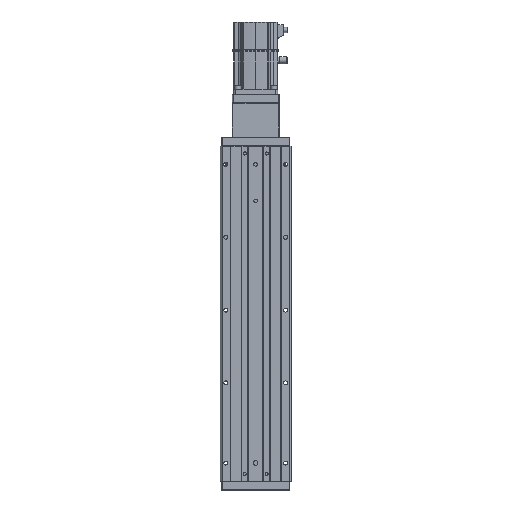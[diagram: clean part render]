
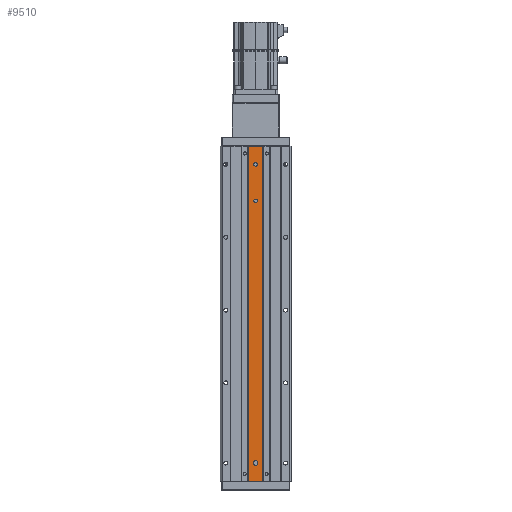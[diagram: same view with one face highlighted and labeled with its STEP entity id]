
A CAD part, front view. The second image highlights one B-rep face of the part: STEP entity #9510.
In plain terms, the highlighted planar face has unit normal (0, -1, 0).
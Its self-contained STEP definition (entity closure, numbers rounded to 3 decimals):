
#394 = AXIS2_PLACEMENT_3D ( 'NONE', #22732, #36310, #5788 ) ;
#1192 = ORIENTED_EDGE ( 'NONE', *, *, #33824, .F. ) ;
#2412 = EDGE_CURVE ( 'NONE', #42621, #5331, #25015, .T. ) ;
#4586 = ORIENTED_EDGE ( 'NONE', *, *, #5272, .T. ) ;
#4920 = EDGE_CURVE ( 'NONE', #8675, #5905, #42802, .T. ) ;
#5119 = CARTESIAN_POINT ( 'NONE',  ( -2.5, 1., 155. ) ) ;
#5272 = EDGE_CURVE ( 'NONE', #30691, #33425, #43386, .T. ) ;
#5331 = VERTEX_POINT ( 'NONE', #37237 ) ;
#5554 = DIRECTION ( 'NONE',  ( -1., 0., 0. ) ) ;
#5788 = DIRECTION ( 'NONE',  ( 1., 0., 0. ) ) ;
#5905 = VERTEX_POINT ( 'NONE', #39152 ) ;
#6741 = DIRECTION ( 'NONE',  ( 1., 0., 0. ) ) ;
#6859 = DIRECTION ( 'NONE',  ( 0., 1., 0. ) ) ;
#7227 = EDGE_CURVE ( 'NONE', #5905, #8675, #19587, .T. ) ;
#7366 = CARTESIAN_POINT ( 'NONE',  ( 2.5, 1., -204. ) ) ;
#7408 = EDGE_CURVE ( 'NONE', #34945, #42621, #38041, .T. ) ;
#7446 = DIRECTION ( 'NONE',  ( -1., 0., 0. ) ) ;
#7545 = CARTESIAN_POINT ( 'NONE',  ( -2.5, 1., -204. ) ) ;
#8219 = CARTESIAN_POINT ( 'NONE',  ( -10., 1., -230. ) ) ;
#8675 = VERTEX_POINT ( 'NONE', #14085 ) ;
#8710 = CARTESIAN_POINT ( 'NONE',  ( -2.5, 1., -206. ) ) ;
#9243 = CARTESIAN_POINT ( 'NONE',  ( 0., 1., -204. ) ) ;
#9321 = CARTESIAN_POINT ( 'NONE',  ( 0., 1., 155. ) ) ;
#9369 = ORIENTED_EDGE ( 'NONE', *, *, #10519, .F. ) ;
#9510 = ADVANCED_FACE ( 'NONE', ( #13540, #27143, #40655, #10197 ), #23807, .F. ) ;
#9512 = DIRECTION ( 'NONE',  ( 1., 0., 0. ) ) ;
#10197 = FACE_OUTER_BOUND ( 'NONE', #22573, .T. ) ;
#10519 = EDGE_CURVE ( 'NONE', #23127, #18860, #11346, .T. ) ;
#11346 = LINE ( 'NONE', #24965, #36815 ) ;
#12021 = EDGE_LOOP ( 'NONE', ( #21980, #31884 ) ) ;
#12558 = DIRECTION ( 'NONE',  ( 1., 0., 0. ) ) ;
#12952 = CARTESIAN_POINT ( 'NONE',  ( 10., 1., -230. ) ) ;
#13540 = FACE_BOUND ( 'NONE', #33418, .T. ) ;
#14085 = CARTESIAN_POINT ( 'NONE',  ( -2.5, 1., 205. ) ) ;
#14231 = ORIENTED_EDGE ( 'NONE', *, *, #4920, .F. ) ;
#14877 = CIRCLE ( 'NONE', #39710, 2.5 ) ;
#15033 = CIRCLE ( 'NONE', #20732, 2.5 ) ;
#18860 = VERTEX_POINT ( 'NONE', #38959 ) ;
#18902 = VECTOR ( 'NONE', #21154, 1000. ) ;
#19382 = CARTESIAN_POINT ( 'NONE',  ( 10., 1., -230. ) ) ;
#19584 = CARTESIAN_POINT ( 'NONE',  ( 2.5, 1., -204. ) ) ;
#19587 = CIRCLE ( 'NONE', #394, 2.5 ) ;
#20467 = DIRECTION ( 'NONE',  ( -1., 0., 0. ) ) ;
#20732 = AXIS2_PLACEMENT_3D ( 'NONE', #9321, #22923, #36497 ) ;
#20968 = DIRECTION ( 'NONE',  ( 0., 0., 1. ) ) ;
#21042 = CARTESIAN_POINT ( 'NONE',  ( 2.5, 1., 155. ) ) ;
#21154 = DIRECTION ( 'NONE',  ( 0., 0., -1. ) ) ;
#21729 = ORIENTED_EDGE ( 'NONE', *, *, #7408, .F. ) ;
#21980 = ORIENTED_EDGE ( 'NONE', *, *, #22515, .F. ) ;
#22014 = ORIENTED_EDGE ( 'NONE', *, *, #25784, .T. ) ;
#22296 = VECTOR ( 'NONE', #26562, 1000. ) ;
#22493 = LINE ( 'NONE', #36076, #34372 ) ;
#22515 = EDGE_CURVE ( 'NONE', #28106, #25721, #14877, .T. ) ;
#22573 = EDGE_LOOP ( 'NONE', ( #22014, #9369, #29512, #4586 ) ) ;
#22732 = CARTESIAN_POINT ( 'NONE',  ( 0., 1., 205. ) ) ;
#22842 = DIRECTION ( 'NONE',  ( 0., -1., 0. ) ) ;
#22923 = DIRECTION ( 'NONE',  ( 0., -1., 0. ) ) ;
#23127 = VERTEX_POINT ( 'NONE', #8219 ) ;
#23130 = AXIS2_PLACEMENT_3D ( 'NONE', #9243, #22842, #36416 ) ;
#23687 = CARTESIAN_POINT ( 'NONE',  ( 0., 1., 155. ) ) ;
#23694 = AXIS2_PLACEMENT_3D ( 'NONE', #26463, #39981, #9512 ) ;
#23807 = PLANE ( 'NONE',  #39518 ) ;
#24355 = AXIS2_PLACEMENT_3D ( 'NONE', #29506, #42989, #12558 ) ;
#24397 = LINE ( 'NONE', #37940, #28814 ) ;
#24575 = EDGE_CURVE ( 'NONE', #25721, #28106, #15033, .T. ) ;
#24587 = VERTEX_POINT ( 'NONE', #19584 ) ;
#24965 = CARTESIAN_POINT ( 'NONE',  ( -10., 1., -230. ) ) ;
#25015 = CIRCLE ( 'NONE', #24355, 2.5 ) ;
#25721 = VERTEX_POINT ( 'NONE', #5119 ) ;
#25784 = EDGE_CURVE ( 'NONE', #33425, #18860, #22493, .T. ) ;
#26344 = ORIENTED_EDGE ( 'NONE', *, *, #2412, .F. ) ;
#26463 = CARTESIAN_POINT ( 'NONE',  ( 0., 1., 205. ) ) ;
#26562 = DIRECTION ( 'NONE',  ( 0., 0., 1. ) ) ;
#27143 = FACE_BOUND ( 'NONE', #12021, .T. ) ;
#27919 = EDGE_CURVE ( 'NONE', #24587, #34945, #42250, .T. ) ;
#28106 = VERTEX_POINT ( 'NONE', #21042 ) ;
#28814 = VECTOR ( 'NONE', #7446, 1000. ) ;
#29379 = EDGE_CURVE ( 'NONE', #30691, #23127, #24397, .T. ) ;
#29506 = CARTESIAN_POINT ( 'NONE',  ( 0., 1., -206. ) ) ;
#29512 = ORIENTED_EDGE ( 'NONE', *, *, #29379, .F. ) ;
#30691 = VERTEX_POINT ( 'NONE', #19382 ) ;
#31884 = ORIENTED_EDGE ( 'NONE', *, *, #24575, .F. ) ;
#33418 = EDGE_LOOP ( 'NONE', ( #42661, #14231 ) ) ;
#33425 = VERTEX_POINT ( 'NONE', #40963 ) ;
#33824 = EDGE_CURVE ( 'NONE', #5331, #24587, #37861, .T. ) ;
#34372 = VECTOR ( 'NONE', #5554, 1000. ) ;
#34945 = VERTEX_POINT ( 'NONE', #38608 ) ;
#34948 = ORIENTED_EDGE ( 'NONE', *, *, #27919, .F. ) ;
#36076 = CARTESIAN_POINT ( 'NONE',  ( -10., 1., 230. ) ) ;
#36310 = DIRECTION ( 'NONE',  ( 0., -1., 0. ) ) ;
#36416 = DIRECTION ( 'NONE',  ( 1., 0., 0. ) ) ;
#36497 = DIRECTION ( 'NONE',  ( 1., 0., 0. ) ) ;
#36815 = VECTOR ( 'NONE', #38486, 1000. ) ;
#37237 = CARTESIAN_POINT ( 'NONE',  ( 2.5, 1., -206. ) ) ;
#37254 = DIRECTION ( 'NONE',  ( 0., -1., 0. ) ) ;
#37370 = CARTESIAN_POINT ( 'NONE',  ( -10., 1., -230. ) ) ;
#37861 = LINE ( 'NONE', #7366, #40692 ) ;
#37940 = CARTESIAN_POINT ( 'NONE',  ( -10., 1., -230. ) ) ;
#38041 = LINE ( 'NONE', #7545, #18902 ) ;
#38486 = DIRECTION ( 'NONE',  ( 0., 0., 1. ) ) ;
#38608 = CARTESIAN_POINT ( 'NONE',  ( -2.5, 1., -204. ) ) ;
#38959 = CARTESIAN_POINT ( 'NONE',  ( -10., 1., 230. ) ) ;
#39152 = CARTESIAN_POINT ( 'NONE',  ( 2.5, 1., 205. ) ) ;
#39518 = AXIS2_PLACEMENT_3D ( 'NONE', #37370, #6859, #20467 ) ;
#39710 = AXIS2_PLACEMENT_3D ( 'NONE', #23687, #37254, #6741 ) ;
#39981 = DIRECTION ( 'NONE',  ( 0., -1., 0. ) ) ;
#40655 = FACE_BOUND ( 'NONE', #41222, .T. ) ;
#40692 = VECTOR ( 'NONE', #20968, 1000. ) ;
#40963 = CARTESIAN_POINT ( 'NONE',  ( 10., 1., 230. ) ) ;
#41222 = EDGE_LOOP ( 'NONE', ( #21729, #34948, #1192, #26344 ) ) ;
#42250 = CIRCLE ( 'NONE', #23130, 2.5 ) ;
#42621 = VERTEX_POINT ( 'NONE', #8710 ) ;
#42661 = ORIENTED_EDGE ( 'NONE', *, *, #7227, .F. ) ;
#42802 = CIRCLE ( 'NONE', #23694, 2.5 ) ;
#42989 = DIRECTION ( 'NONE',  ( 0., -1., 0. ) ) ;
#43386 = LINE ( 'NONE', #12952, #22296 ) ;
